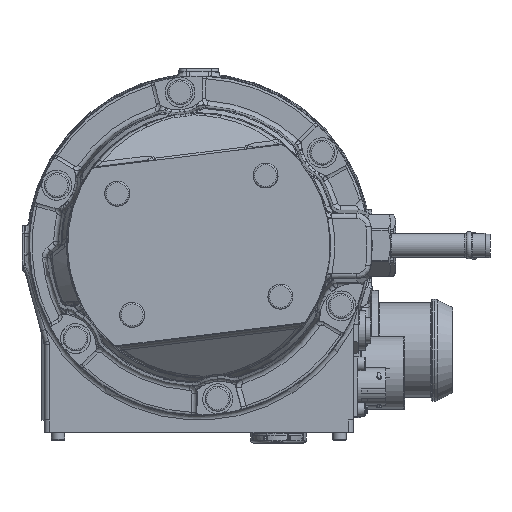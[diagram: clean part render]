
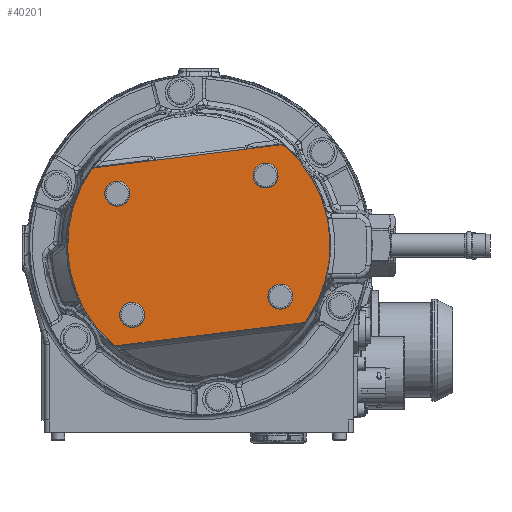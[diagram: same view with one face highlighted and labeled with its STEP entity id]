
A CAD part, top view. The second image highlights one B-rep face of the part: STEP entity #40201.
In plain terms, the highlighted planar face has unit normal (0, 0, 1).
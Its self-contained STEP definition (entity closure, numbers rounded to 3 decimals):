
#2545=FACE_BOUND('',#14620,.T.);
#2546=FACE_BOUND('',#14621,.T.);
#2547=FACE_BOUND('',#14622,.T.);
#2548=FACE_BOUND('',#14623,.T.);
#5514=PLANE('',#43624);
#7501=LINE('',#87850,#9639);
#7502=LINE('',#87858,#9640);
#9639=VECTOR('',#52295,10.);
#9640=VECTOR('',#52302,10.);
#12305=FACE_OUTER_BOUND('',#14619,.T.);
#14619=EDGE_LOOP('',(#36569,#36570,#36571,#36572,#36573,#36574,#36575,#36576));
#14620=EDGE_LOOP('',(#36577));
#14621=EDGE_LOOP('',(#36578));
#14622=EDGE_LOOP('',(#36579));
#14623=EDGE_LOOP('',(#36580));
#14934=CIRCLE('',#40516,5.);
#14939=CIRCLE('',#40524,5.);
#14944=CIRCLE('',#40532,5.);
#14949=CIRCLE('',#40540,5.);
#16541=CIRCLE('',#43625,3.);
#16542=CIRCLE('',#43626,3.);
#16543=CIRCLE('',#43627,52.7);
#16544=CIRCLE('',#43628,3.);
#16545=CIRCLE('',#43629,3.);
#16546=CIRCLE('',#43630,52.7);
#16806=VERTEX_POINT('',#53583);
#16810=VERTEX_POINT('',#53596);
#16814=VERTEX_POINT('',#53609);
#16818=VERTEX_POINT('',#53622);
#20080=VERTEX_POINT('',#87846);
#20081=VERTEX_POINT('',#87847);
#20082=VERTEX_POINT('',#87849);
#20083=VERTEX_POINT('',#87851);
#20084=VERTEX_POINT('',#87853);
#20085=VERTEX_POINT('',#87855);
#20086=VERTEX_POINT('',#87857);
#20087=VERTEX_POINT('',#87859);
#20513=EDGE_CURVE('',#16806,#16806,#14934,.T.);
#20519=EDGE_CURVE('',#16810,#16810,#14939,.T.);
#20525=EDGE_CURVE('',#16814,#16814,#14944,.T.);
#20531=EDGE_CURVE('',#16818,#16818,#14949,.T.);
#25658=EDGE_CURVE('',#20080,#20081,#16541,.T.);
#25659=EDGE_CURVE('',#20080,#20082,#7501,.T.);
#25660=EDGE_CURVE('',#20083,#20082,#16542,.T.);
#25661=EDGE_CURVE('',#20084,#20083,#16543,.T.);
#25662=EDGE_CURVE('',#20085,#20084,#16544,.T.);
#25663=EDGE_CURVE('',#20085,#20086,#7502,.T.);
#25664=EDGE_CURVE('',#20087,#20086,#16545,.T.);
#25665=EDGE_CURVE('',#20081,#20087,#16546,.T.);
#36569=ORIENTED_EDGE('',*,*,#25658,.F.);
#36570=ORIENTED_EDGE('',*,*,#25659,.T.);
#36571=ORIENTED_EDGE('',*,*,#25660,.F.);
#36572=ORIENTED_EDGE('',*,*,#25661,.F.);
#36573=ORIENTED_EDGE('',*,*,#25662,.F.);
#36574=ORIENTED_EDGE('',*,*,#25663,.T.);
#36575=ORIENTED_EDGE('',*,*,#25664,.F.);
#36576=ORIENTED_EDGE('',*,*,#25665,.F.);
#36577=ORIENTED_EDGE('',*,*,#20525,.T.);
#36578=ORIENTED_EDGE('',*,*,#20519,.T.);
#36579=ORIENTED_EDGE('',*,*,#20531,.T.);
#36580=ORIENTED_EDGE('',*,*,#20513,.T.);
#40201=ADVANCED_FACE('',(#12305,#2545,#2546,#2547,#2548),#5514,.T.);
#40516=AXIS2_PLACEMENT_3D('',#53585,#44166,#44167);
#40524=AXIS2_PLACEMENT_3D('',#53598,#44183,#44184);
#40532=AXIS2_PLACEMENT_3D('',#53611,#44200,#44201);
#40540=AXIS2_PLACEMENT_3D('',#53624,#44217,#44218);
#43624=AXIS2_PLACEMENT_3D('',#87845,#52291,#52292);
#43625=AXIS2_PLACEMENT_3D('',#87848,#52293,#52294);
#43626=AXIS2_PLACEMENT_3D('',#87852,#52296,#52297);
#43627=AXIS2_PLACEMENT_3D('',#87854,#52298,#52299);
#43628=AXIS2_PLACEMENT_3D('',#87856,#52300,#52301);
#43629=AXIS2_PLACEMENT_3D('',#87860,#52303,#52304);
#43630=AXIS2_PLACEMENT_3D('',#87861,#52305,#52306);
#44166=DIRECTION('center_axis',(0.,0.,
-1.));
#44167=DIRECTION('ref_axis',(0.993,0.122,0.));
#44183=DIRECTION('center_axis',(0.,0.,
-1.));
#44184=DIRECTION('ref_axis',(0.993,0.122,0.));
#44200=DIRECTION('center_axis',(0.,0.,
-1.));
#44201=DIRECTION('ref_axis',(0.993,0.122,0.));
#44217=DIRECTION('center_axis',(0.,0.,
-1.));
#44218=DIRECTION('ref_axis',(0.993,0.122,0.));
#52291=DIRECTION('center_axis',(0.,0.,
1.));
#52292=DIRECTION('ref_axis',(-0.993,-0.122,0.));
#52293=DIRECTION('center_axis',(0.,0.,
-1.));
#52294=DIRECTION('ref_axis',(0.296,0.955,0.));
#52295=DIRECTION('',(-0.993,-0.122,0.));
#52296=DIRECTION('center_axis',(0.,0.,
-1.));
#52297=DIRECTION('ref_axis',(-0.518,0.855,0.));
#52298=DIRECTION('center_axis',(0.,0.,
-1.));
#52299=DIRECTION('ref_axis',(-0.993,-0.122,0.));
#52300=DIRECTION('center_axis',(0.,0.,
-1.));
#52301=DIRECTION('ref_axis',(-0.296,-0.955,0.));
#52302=DIRECTION('',(0.993,0.122,0.));
#52303=DIRECTION('center_axis',(0.,0.,
-1.));
#52304=DIRECTION('ref_axis',(0.518,-0.855,0.));
#52305=DIRECTION('center_axis',(0.,0.,
-1.));
#52306=DIRECTION('ref_axis',(-0.993,-0.122,0.));
#53583=CARTESIAN_POINT('',(27.799,-21.271,164.));
#53585=CARTESIAN_POINT('Origin',(32.762,-20.661,164.));
#53596=CARTESIAN_POINT('',(-31.753,-28.583,164.));
#53598=CARTESIAN_POINT('Origin',(-26.791,-27.973,164.));
#53609=CARTESIAN_POINT('',(-37.725,20.052,164.));
#53611=CARTESIAN_POINT('Origin',(-32.762,20.661,164.));
#53622=CARTESIAN_POINT('',(21.828,27.364,164.));
#53624=CARTESIAN_POINT('Origin',(26.791,27.973,164.));
#87845=CARTESIAN_POINT('Origin',(52.307,6.423,164.));
#87846=CARTESIAN_POINT('',(32.499,40.261,164.));
#87847=CARTESIAN_POINT('',(34.848,39.534,164.));
#87848=CARTESIAN_POINT('Origin',(32.864,37.283,164.));
#87849=CARTESIAN_POINT('',(-41.273,31.203,164.));
#87850=CARTESIAN_POINT('',(40.867,41.288,164.));
#87851=CARTESIAN_POINT('',(-43.377,29.929,164.));
#87852=CARTESIAN_POINT('Origin',(-40.908,28.225,164.));
#87853=CARTESIAN_POINT('',(-34.848,-39.534,164.));
#87854=CARTESIAN_POINT('Origin',(0.,0.,
164.));
#87855=CARTESIAN_POINT('',(-32.499,-40.261,164.));
#87856=CARTESIAN_POINT('Origin',(-32.864,-37.283,164.));
#87857=CARTESIAN_POINT('',(41.273,-31.203,164.));
#87858=CARTESIAN_POINT('',(11.441,-34.866,164.));
#87859=CARTESIAN_POINT('',(43.377,-29.929,164.));
#87860=CARTESIAN_POINT('Origin',(40.908,-28.225,164.));
#87861=CARTESIAN_POINT('Origin',(0.,0.,
164.));
